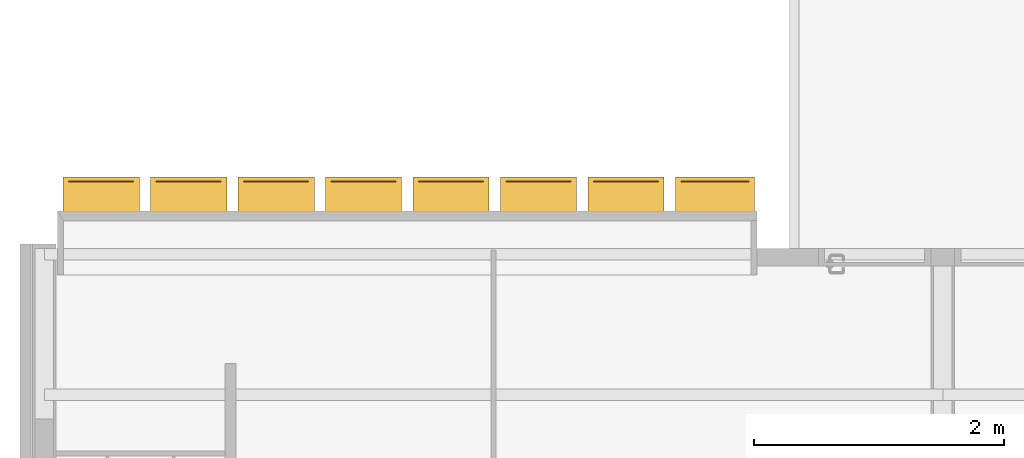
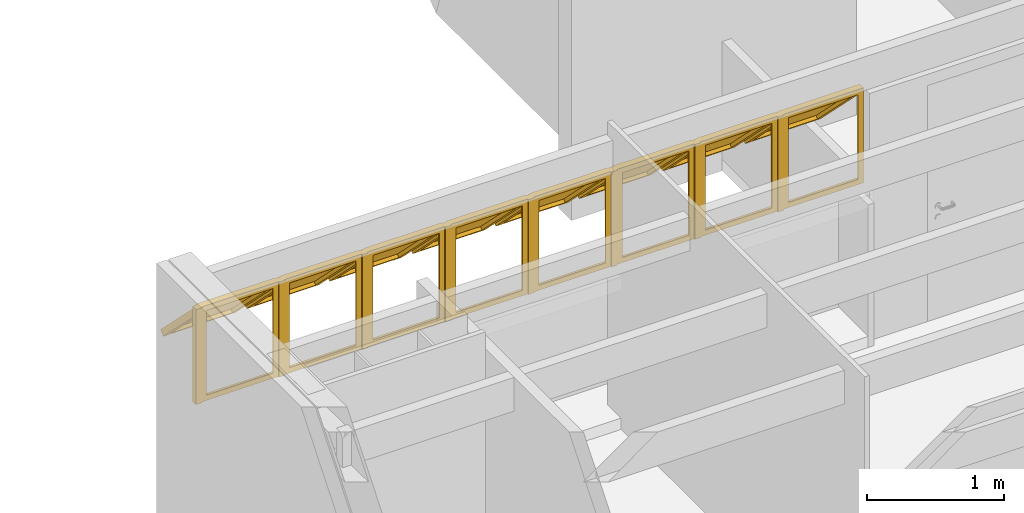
# One storey, part 17 of 22: 1 window.
"""IFC2X3 building model written with IfcOpenShell, lengths in millimetres."""

from ifc_helpers import new_model, si_unit, direction, frame, frame_2d, origin_with_axes, origin_2d_with_axis, place, context, subcontext, project, spatial, polyline, rectangle, outline, extrude, source, transform, mapped, type_object, type_shapes, element, save


model = new_model("IFC2X3")

# Units and contexts
model_context = context("Model", 3, precision=1e-05, world=origin_with_axes(), true_north=direction((0.0, 1.0)))
body_context = subcontext(model_context, "Body", "Model", "MODEL_VIEW")
ifc_project = project(units=[si_unit("LENGTHUNIT", "METRE", prefix="MILLI"), si_unit("AREAUNIT", "SQUARE_METRE"), si_unit("VOLUMEUNIT", "CUBIC_METRE"), si_unit("PLANEANGLEUNIT", "RADIAN"), si_unit("TIMEUNIT", "SECOND"), si_unit("MASSUNIT", "GRAM")], contexts=[model_context])

# Site, building, storey
site_placement = place(None, origin_with_axes())
site = spatial("IfcSite", under=ifc_project, at=site_placement, Name="Site", CompositionType="ELEMENT")
building_placement = place(site_placement, origin_with_axes())
building = spatial("IfcBuilding", under=site, at=building_placement, Name="Construção", CompositionType="COMPLEX")
storey_placement = place(building_placement, frame((0.0, 0.0, 2650.0), z_axis=(0.0, 0.0, 1.0), x_axis=(1.0, 0.0, 0.0)))
storey = spatial("IfcBuildingStorey", under=building, at=storey_placement, Name="Segundo Pavimento", CompositionType="COMPLEX", Elevation=2650.0)

# Window
window_style = type_object("IfcWindowStyle", ConstructionType="NOTDEFINED", OperationType="NOTDEFINED", ParameterTakesPrecedence=False, Sizeable=False)
shared_shape_1 = source(origin_with_axes(), body_context, "Body", "SweptSolid", [
    extrude(outline(polyline([(324.99999695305, -22.5), (-324.99999695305, -22.5), (-279.99999695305, 22.5), (279.99999695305, 22.5), (324.99999695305, -22.5)])), frame((-350.0000005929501, 22.5, -40.0), z_axis=(0.0, 0.0, 1.0), x_axis=(1.0, 0.0, 0.0)), (0.0, 0.0, 1.0), 5.0),
    extrude(outline(polyline([(-22.5, -422.499945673), (-22.5, 422.499945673), (22.5, 377.499945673), (22.5, -377.499945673), (-22.5, -422.499945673)])), frame((-652.499997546, 422.499945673, -40.0), z_axis=(0.0, 0.0, 1.0), x_axis=(1.0, 0.0, 0.0)), (0.0, 0.0, 1.0), 5.0),
    extrude(outline(polyline([(324.99999695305, 22.5), (279.99999695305, -22.5), (-279.9999969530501, -22.5), (-324.9999969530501, 22.5), (324.99999695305, 22.5)])), frame((-350.00000059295, 822.499891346, -40.0), z_axis=(0.0, 0.0, 1.0), x_axis=(1.0, 0.0, 0.0)), (0.0, 0.0, 1.0), 5.0),
    extrude(outline(polyline([(22.5, -422.499945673), (-22.5, -377.499945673), (-22.5, 377.499945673), (22.5, 422.499945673), (22.5, -422.499945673)])), frame((-47.5000036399, 422.499945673, -40.0), z_axis=(0.0, 0.0, 1.0), x_axis=(1.0, 0.0, 0.0)), (0.0, 0.0, 1.0), 5.0),
    extrude(outline(polyline([(324.99999695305, -10.0), (-324.99999695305, -10.0), (-304.99999695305, 10.0), (304.99999695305, 10.0), (324.99999695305, -10.0)])), frame((-350.0000005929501, 10.0, -35.0), z_axis=(0.0, 0.0, 1.0), x_axis=(1.0, 0.0, 0.0)), (0.0, 0.0, 1.0), 50.0),
    extrude(outline(polyline([(-10.0, -422.499945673), (-10.0, 422.499945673), (10.0, 402.499945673), (10.0, -402.499945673), (-10.0, -422.499945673)])), frame((-664.999997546, 422.499945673, -35.0), z_axis=(0.0, 0.0, 1.0), x_axis=(1.0, 0.0, 0.0)), (0.0, 0.0, 1.0), 50.0),
    extrude(outline(polyline([(324.99999695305, 10.0), (304.99999695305, -10.0), (-304.9999969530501, -10.0), (-324.9999969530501, 10.0), (324.99999695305, 10.0)])), frame((-350.00000059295, 834.999891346, -35.0), z_axis=(0.0, 0.0, 1.0), x_axis=(1.0, 0.0, 0.0)), (0.0, 0.0, 1.0), 50.0),
    extrude(outline(polyline([(10.0, -422.499945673), (-10.0, -402.499945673), (-10.0, 402.499945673), (10.0, 422.499945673), (10.0, -422.499945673)])), frame((-35.0000036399, 422.499945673, -35.0), z_axis=(0.0, 0.0, 1.0), x_axis=(1.0, 0.0, 0.0)), (0.0, 0.0, 1.0), 50.0),
    extrude(rectangle(XDim=844.999891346, YDim=19.99999787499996, at=frame_2d((0.0, 0.0), x_axis=(0.0, 1.0))), frame((-684.9999964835, 422.499945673, -10.0), z_axis=(0.0, 0.0, 1.0), x_axis=(1.0, 0.0, 0.0)), (0.0, 0.0, 1.0), 20.0),
    extrude(rectangle(XDim=844.999891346, YDim=19.99999787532, at=frame_2d((0.0, 0.0), x_axis=(0.0, 1.0))), frame((-15.00000470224, 422.499945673, -10.0), z_axis=(0.0, 0.0, 1.0), x_axis=(1.0, 0.0, 0.0)), (0.0, 0.0, 1.0), 20.0),
    extrude(outline(polyline([(-22.5, -357.4999456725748), (-22.50000000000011, 357.499945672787), (22.5, 402.4999456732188), (22.5, -402.4999456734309), (-22.5, -357.4999456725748)])), frame((-67.5000036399, 505.034111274, 264.2551019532), z_axis=(4.714640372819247e-12, 0.7071067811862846, 0.7071067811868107), x_axis=(1.0, 0.0, 0.0)), (0.0, 0.0, 1.0), 55.00000000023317),
    extrude(outline(polyline([(-22.5, -402.4999456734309), (-22.50000000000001, 402.4999456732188), (22.5, 357.499945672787), (22.5, -357.4999456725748), (-22.5, -402.4999456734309)])), frame((-632.499997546, 505.034111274, 264.2551019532), z_axis=(4.714640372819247e-12, 0.7071067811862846, 0.7071067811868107), x_axis=(1.0, 0.0, 0.0)), (0.0, 0.0, 1.0), 55.00000000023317),
    extrude(outline(polyline([(-304.9999969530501, -22.50000000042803), (-259.9999969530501, 22.50000000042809), (259.99999695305, 22.50000000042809), (304.99999695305, -22.50000000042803), (-304.9999969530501, -22.50000000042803)])), frame((-350.0000005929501, 236.333572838, 532.955640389), z_axis=(4.714640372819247e-12, 0.7071067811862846, 0.7071067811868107), x_axis=(1.0, 0.0, 0.0)), (0.0, 0.0, 1.0), 55.00000000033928),
    extrude(outline(polyline([(304.99999695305, 22.500000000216), (259.99999695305, -22.500000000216), (-259.9999969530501, -22.500000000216), (-304.9999969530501, 22.500000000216), (304.99999695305, 22.500000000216)])), frame((-350.00000059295, 773.73464971, -4.4454364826), z_axis=(4.714640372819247e-12, 0.7071067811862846, 0.7071067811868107), x_axis=(1.0, 0.0, 0.0)), (0.0, 0.0, 1.0), 55.00000000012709),
])
shared_shape_2 = source(origin_with_axes(), body_context, "Body", "SweptSolid", [
    extrude(rectangle(XDim=519.9999939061, YDim=16.00000000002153, at=origin_2d_with_axis()), frame((-350.0000005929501, 783.9876980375, 37.627416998), z_axis=(0.0, -0.7071067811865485, 0.7071067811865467), x_axis=(1.0, 0.0, 0.0)), (0.0, 0.0, 1.0), 714.9998913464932),
])
shared_shape_3 = source(origin_with_axes(), body_context, "Body", "MappedRepresentation", [
    mapped(shared_shape_1, transform((2400.0, 8250.0, 4005.00007107), x_axis=(-1.0, 0.0, 0.0), y_axis=(0.0, 0.0, 1.0), z_axis=(0.0, 1.0, 0.0), scale=1.0)),
    mapped(shared_shape_2, transform((2400.0, 8250.0, 4005.00007107), x_axis=(-1.0, 0.0, 0.0), y_axis=(0.0, 0.0, 1.0), z_axis=(0.0, 1.0, 0.0), scale=1.0)),
])
shared_shape_4 = source(origin_with_axes(), body_context, "Body", "MappedRepresentation", [
    mapped(shared_shape_1, transform((4500.0, 8250.0, 4005.00007107), x_axis=(-1.0, 0.0, 0.0), y_axis=(0.0, 0.0, 1.0), z_axis=(0.0, 1.0, 0.0), scale=1.0)),
    mapped(shared_shape_2, transform((4500.0, 8250.0, 4005.00007107), x_axis=(-1.0, 0.0, 0.0), y_axis=(0.0, 0.0, 1.0), z_axis=(0.0, 1.0, 0.0), scale=1.0)),
])
shared_shape_5 = source(origin_with_axes(), body_context, "Body", "SweptSolid", [
    extrude(outline(polyline([(324.99999695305, -22.5), (-324.99999695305, -22.5), (-279.99999695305, 22.5), (279.99999695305, 22.5), (324.99999695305, -22.5)])), frame((-350.0000005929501, 22.5, -40.0), z_axis=(0.0, 0.0, 1.0), x_axis=(1.0, 0.0, 0.0)), (0.0, 0.0, 1.0), 5.0),
    extrude(outline(polyline([(-22.5, -422.499945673), (-22.5, 422.499945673), (22.5, 377.499945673), (22.5, -377.499945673), (-22.5, -422.499945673)])), frame((-652.499997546, 422.499945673, -40.0), z_axis=(0.0, 0.0, 1.0), x_axis=(1.0, 0.0, 0.0)), (0.0, 0.0, 1.0), 5.0),
    extrude(outline(polyline([(324.99999695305, 22.5), (279.99999695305, -22.5), (-279.9999969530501, -22.5), (-324.9999969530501, 22.5), (324.99999695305, 22.5)])), frame((-350.00000059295, 822.499891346, -40.0), z_axis=(0.0, 0.0, 1.0), x_axis=(1.0, 0.0, 0.0)), (0.0, 0.0, 1.0), 5.0),
    extrude(outline(polyline([(22.5, -422.499945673), (-22.5, -377.499945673), (-22.5, 377.499945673), (22.5, 422.499945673), (22.5, -422.499945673)])), frame((-47.5000036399, 422.499945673, -40.0), z_axis=(0.0, 0.0, 1.0), x_axis=(1.0, 0.0, 0.0)), (0.0, 0.0, 1.0), 5.0),
    extrude(outline(polyline([(324.99999695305, -10.0), (-324.99999695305, -10.0), (-304.99999695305, 10.0), (304.99999695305, 10.0), (324.99999695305, -10.0)])), frame((-350.0000005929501, 10.0, -35.0), z_axis=(0.0, 0.0, 1.0), x_axis=(1.0, 0.0, 0.0)), (0.0, 0.0, 1.0), 50.0),
    extrude(outline(polyline([(-10.0, -422.499945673), (-10.0, 422.499945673), (10.0, 402.499945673), (10.0, -402.499945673), (-10.0, -422.499945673)])), frame((-664.999997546, 422.499945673, -35.0), z_axis=(0.0, 0.0, 1.0), x_axis=(1.0, 0.0, 0.0)), (0.0, 0.0, 1.0), 50.0),
    extrude(outline(polyline([(324.99999695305, 10.0), (304.99999695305, -10.0), (-304.9999969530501, -10.0), (-324.9999969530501, 10.0), (324.99999695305, 10.0)])), frame((-350.00000059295, 834.999891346, -35.0), z_axis=(0.0, 0.0, 1.0), x_axis=(1.0, 0.0, 0.0)), (0.0, 0.0, 1.0), 50.0),
    extrude(outline(polyline([(10.0, -422.499945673), (-10.0, -402.499945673), (-10.0, 402.499945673), (10.0, 422.499945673), (10.0, -422.499945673)])), frame((-35.0000036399, 422.499945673, -35.0), z_axis=(0.0, 0.0, 1.0), x_axis=(1.0, 0.0, 0.0)), (0.0, 0.0, 1.0), 50.0),
    extrude(rectangle(XDim=844.999891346, YDim=19.99999787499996, at=frame_2d((0.0, 0.0), x_axis=(0.0, 1.0))), frame((-684.9999964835, 422.499945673, -10.0), z_axis=(0.0, 0.0, 1.0), x_axis=(1.0, 0.0, 0.0)), (0.0, 0.0, 1.0), 20.0),
    extrude(rectangle(XDim=844.999891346, YDim=19.99999787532, at=frame_2d((0.0, 0.0), x_axis=(0.0, 1.0))), frame((-15.00000470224, 422.499945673, -10.0), z_axis=(0.0, 0.0, 1.0), x_axis=(1.0, 0.0, 0.0)), (0.0, 0.0, 1.0), 20.0),
    extrude(outline(polyline([(-22.5, -357.4999456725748), (-22.50000000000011, 357.499945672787), (22.5, 402.4999456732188), (22.5, -402.4999456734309), (-22.5, -357.4999456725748)])), frame((-67.5000036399, 505.034111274, 264.2551019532), z_axis=(4.714640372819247e-12, 0.7071067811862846, 0.7071067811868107), x_axis=(1.0, 0.0, 0.0)), (0.0, 0.0, 1.0), 55.00000000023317),
    extrude(outline(polyline([(-22.5, -402.4999456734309), (-22.50000000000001, 402.4999456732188), (22.5, 357.499945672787), (22.5, -357.4999456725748), (-22.5, -402.4999456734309)])), frame((-632.499997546, 505.034111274, 264.2551019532), z_axis=(4.714640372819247e-12, 0.7071067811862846, 0.7071067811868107), x_axis=(1.0, 0.0, 0.0)), (0.0, 0.0, 1.0), 55.00000000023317),
    extrude(outline(polyline([(-304.9999969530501, -22.50000000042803), (-259.9999969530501, 22.50000000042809), (259.99999695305, 22.50000000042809), (304.99999695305, -22.50000000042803), (-304.9999969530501, -22.50000000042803)])), frame((-350.0000005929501, 236.333572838, 532.955640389), z_axis=(4.714640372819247e-12, 0.7071067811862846, 0.7071067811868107), x_axis=(1.0, 0.0, 0.0)), (0.0, 0.0, 1.0), 55.00000000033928),
    extrude(outline(polyline([(304.99999695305, 22.500000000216), (259.99999695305, -22.500000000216), (-259.9999969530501, -22.500000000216), (-304.9999969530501, 22.500000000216), (304.99999695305, 22.500000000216)])), frame((-350.00000059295, 773.73464971, -4.4454364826), z_axis=(4.714640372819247e-12, 0.7071067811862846, 0.7071067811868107), x_axis=(1.0, 0.0, 0.0)), (0.0, 0.0, 1.0), 55.00000000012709),
])
shared_shape_6 = source(origin_with_axes(), body_context, "Body", "SweptSolid", [
    extrude(rectangle(XDim=519.9999939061, YDim=16.00000000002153, at=origin_2d_with_axis()), frame((-350.0000005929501, 783.9876980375, 37.627416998), z_axis=(0.0, -0.7071067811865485, 0.7071067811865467), x_axis=(1.0, 0.0, 0.0)), (0.0, 0.0, 1.0), 714.9998913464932),
])
shared_shape_7 = source(origin_with_axes(), body_context, "Body", "MappedRepresentation", [
    mapped(shared_shape_5, transform((300.0, 8250.0, 4005.00007107), x_axis=(-1.0, 0.0, 0.0), y_axis=(0.0, 0.0, 1.0), z_axis=(0.0, 1.0, 0.0), scale=1.0)),
    mapped(shared_shape_6, transform((300.0, 8250.0, 4005.00007107), x_axis=(-1.0, 0.0, 0.0), y_axis=(0.0, 0.0, 1.0), z_axis=(0.0, 1.0, 0.0), scale=1.0)),
])
shared_shape_8 = source(origin_with_axes(), body_context, "Body", "MappedRepresentation", [
    mapped(shared_shape_5, transform((1000.0, 8250.0, 4005.00007107), x_axis=(-1.0, 0.0, 0.0), y_axis=(0.0, 0.0, 1.0), z_axis=(0.0, 1.0, 0.0), scale=1.0)),
    mapped(shared_shape_6, transform((1000.0, 8250.0, 4005.00007107), x_axis=(-1.0, 0.0, 0.0), y_axis=(0.0, 0.0, 1.0), z_axis=(0.0, 1.0, 0.0), scale=1.0)),
])
shared_shape_9 = source(origin_with_axes(), body_context, "Body", "SweptSolid", [
    extrude(outline(polyline([(324.99999695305, -22.5), (-324.99999695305, -22.5), (-279.99999695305, 22.5), (279.99999695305, 22.5), (324.99999695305, -22.5)])), frame((-350.0000005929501, 22.5, -40.0), z_axis=(0.0, 0.0, 1.0), x_axis=(1.0, 0.0, 0.0)), (0.0, 0.0, 1.0), 5.0),
    extrude(outline(polyline([(-22.5, -422.499945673), (-22.5, 422.499945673), (22.5, 377.499945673), (22.5, -377.499945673), (-22.5, -422.499945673)])), frame((-652.499997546, 422.499945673, -40.0), z_axis=(0.0, 0.0, 1.0), x_axis=(1.0, 0.0, 0.0)), (0.0, 0.0, 1.0), 5.0),
    extrude(outline(polyline([(324.99999695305, 22.5), (279.99999695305, -22.5), (-279.9999969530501, -22.5), (-324.9999969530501, 22.5), (324.99999695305, 22.5)])), frame((-350.00000059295, 822.499891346, -40.0), z_axis=(0.0, 0.0, 1.0), x_axis=(1.0, 0.0, 0.0)), (0.0, 0.0, 1.0), 5.0),
    extrude(outline(polyline([(22.5, -422.499945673), (-22.5, -377.499945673), (-22.5, 377.499945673), (22.5, 422.499945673), (22.5, -422.499945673)])), frame((-47.5000036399, 422.499945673, -40.0), z_axis=(0.0, 0.0, 1.0), x_axis=(1.0, 0.0, 0.0)), (0.0, 0.0, 1.0), 5.0),
    extrude(outline(polyline([(324.99999695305, -10.0), (-324.99999695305, -10.0), (-304.99999695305, 10.0), (304.99999695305, 10.0), (324.99999695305, -10.0)])), frame((-350.0000005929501, 10.0, -35.0), z_axis=(0.0, 0.0, 1.0), x_axis=(1.0, 0.0, 0.0)), (0.0, 0.0, 1.0), 50.0),
    extrude(outline(polyline([(-10.0, -422.499945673), (-10.0, 422.499945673), (10.0, 402.499945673), (10.0, -402.499945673), (-10.0, -422.499945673)])), frame((-664.999997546, 422.499945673, -35.0), z_axis=(0.0, 0.0, 1.0), x_axis=(1.0, 0.0, 0.0)), (0.0, 0.0, 1.0), 50.0),
    extrude(outline(polyline([(324.99999695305, 10.0), (304.99999695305, -10.0), (-304.9999969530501, -10.0), (-324.9999969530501, 10.0), (324.99999695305, 10.0)])), frame((-350.00000059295, 834.999891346, -35.0), z_axis=(0.0, 0.0, 1.0), x_axis=(1.0, 0.0, 0.0)), (0.0, 0.0, 1.0), 50.0),
    extrude(outline(polyline([(10.0, -422.499945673), (-10.0, -402.499945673), (-10.0, 402.499945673), (10.0, 422.499945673), (10.0, -422.499945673)])), frame((-35.0000036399, 422.499945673, -35.0), z_axis=(0.0, 0.0, 1.0), x_axis=(1.0, 0.0, 0.0)), (0.0, 0.0, 1.0), 50.0),
    extrude(rectangle(XDim=844.999891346, YDim=19.99999787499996, at=frame_2d((0.0, 0.0), x_axis=(0.0, 1.0))), frame((-684.9999964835, 422.499945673, -10.0), z_axis=(0.0, 0.0, 1.0), x_axis=(1.0, 0.0, 0.0)), (0.0, 0.0, 1.0), 20.0),
    extrude(rectangle(XDim=844.999891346, YDim=19.99999787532, at=frame_2d((0.0, 0.0), x_axis=(0.0, 1.0))), frame((-15.00000470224, 422.499945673, -10.0), z_axis=(0.0, 0.0, 1.0), x_axis=(1.0, 0.0, 0.0)), (0.0, 0.0, 1.0), 20.0),
    extrude(outline(polyline([(-22.5, -357.4999456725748), (-22.50000000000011, 357.499945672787), (22.5, 402.4999456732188), (22.5, -402.4999456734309), (-22.5, -357.4999456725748)])), frame((-67.5000036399, 505.034111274, 264.2551019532), z_axis=(4.714640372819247e-12, 0.7071067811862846, 0.7071067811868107), x_axis=(1.0, 0.0, 0.0)), (0.0, 0.0, 1.0), 55.00000000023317),
    extrude(outline(polyline([(-22.5, -402.4999456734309), (-22.50000000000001, 402.4999456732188), (22.5, 357.499945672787), (22.5, -357.4999456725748), (-22.5, -402.4999456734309)])), frame((-632.499997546, 505.034111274, 264.2551019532), z_axis=(4.714640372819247e-12, 0.7071067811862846, 0.7071067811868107), x_axis=(1.0, 0.0, 0.0)), (0.0, 0.0, 1.0), 55.00000000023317),
    extrude(outline(polyline([(-304.9999969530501, -22.50000000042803), (-259.9999969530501, 22.50000000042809), (259.99999695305, 22.50000000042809), (304.99999695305, -22.50000000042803), (-304.9999969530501, -22.50000000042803)])), frame((-350.0000005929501, 236.333572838, 532.955640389), z_axis=(4.714640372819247e-12, 0.7071067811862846, 0.7071067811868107), x_axis=(1.0, 0.0, 0.0)), (0.0, 0.0, 1.0), 55.00000000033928),
    extrude(outline(polyline([(304.99999695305, 22.500000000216), (259.99999695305, -22.500000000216), (-259.9999969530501, -22.500000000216), (-304.9999969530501, 22.500000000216), (304.99999695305, 22.500000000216)])), frame((-350.00000059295, 773.73464971, -4.4454364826), z_axis=(4.714640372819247e-12, 0.7071067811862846, 0.7071067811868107), x_axis=(1.0, 0.0, 0.0)), (0.0, 0.0, 1.0), 55.00000000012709),
])
shared_shape_10 = source(origin_with_axes(), body_context, "Body", "SweptSolid", [
    extrude(rectangle(XDim=519.9999939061, YDim=16.00000000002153, at=origin_2d_with_axis()), frame((-350.0000005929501, 783.9876980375, 37.627416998), z_axis=(0.0, -0.7071067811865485, 0.7071067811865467), x_axis=(1.0, 0.0, 0.0)), (0.0, 0.0, 1.0), 714.9998913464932),
])
shared_shape_11 = source(origin_with_axes(), body_context, "Body", "MappedRepresentation", [
    mapped(shared_shape_9, transform((3100.0, 8250.0, 4005.00007107), x_axis=(-1.0, 0.0, 0.0), y_axis=(0.0, 0.0, 1.0), z_axis=(0.0, 1.0, 0.0), scale=1.0)),
    mapped(shared_shape_10, transform((3100.0, 8250.0, 4005.00007107), x_axis=(-1.0, 0.0, 0.0), y_axis=(0.0, 0.0, 1.0), z_axis=(0.0, 1.0, 0.0), scale=1.0)),
])
shared_shape_12 = source(origin_with_axes(), body_context, "Body", "MappedRepresentation", [
    mapped(shared_shape_5, transform((3800.0, 8250.0, 4005.00007107), x_axis=(-1.0, 0.0, 0.0), y_axis=(0.0, 0.0, 1.0), z_axis=(0.0, 1.0, 0.0), scale=1.0)),
    mapped(shared_shape_6, transform((3800.0, 8250.0, 4005.00007107), x_axis=(-1.0, 0.0, 0.0), y_axis=(0.0, 0.0, 1.0), z_axis=(0.0, 1.0, 0.0), scale=1.0)),
])
shared_shape_13 = source(origin_with_axes(), body_context, "Body", "SweptSolid", [
    extrude(outline(polyline([(337.49999657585, -22.5), (-337.49999657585, -22.5), (-292.49999657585, 22.5), (292.49999657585, 22.5), (337.49999657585, -22.5)])), frame((-362.50000285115, 22.5, -40.0), z_axis=(0.0, 0.0, 1.0), x_axis=(1.0, 0.0, 0.0)), (0.0, 0.0, 1.0), 5.0),
    extrude(outline(polyline([(-22.5, -422.4999902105), (-22.5, 422.4999902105), (22.5, 377.4999902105), (22.5, -377.4999902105), (-22.5, -422.4999902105)])), frame((-677.499999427, 422.4999902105, -40.0), z_axis=(0.0, 0.0, 1.0), x_axis=(1.0, 0.0, 0.0)), (0.0, 0.0, 1.0), 5.0),
    extrude(outline(polyline([(337.49999657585, 22.5), (292.49999657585, -22.5), (-292.49999657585, -22.5), (-337.49999657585, 22.5), (337.49999657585, 22.5)])), frame((-362.50000285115, 822.499980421, -40.0), z_axis=(0.0, 0.0, 1.0), x_axis=(1.0, 0.0, 0.0)), (0.0, 0.0, 1.0), 5.0),
    extrude(outline(polyline([(22.5, -422.4999902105), (-22.5, -377.4999902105), (-22.5, 377.4999902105), (22.5, 422.4999902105), (22.5, -422.4999902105)])), frame((-47.5000062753, 422.4999902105, -40.0), z_axis=(0.0, 0.0, 1.0), x_axis=(1.0, 0.0, 0.0)), (0.0, 0.0, 1.0), 5.0),
    extrude(outline(polyline([(337.49999657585, -10.0), (-337.49999657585, -10.0), (-317.49999657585, 10.0), (317.49999657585, 10.0), (337.49999657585, -10.0)])), frame((-362.50000285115, 10.0, -35.0), z_axis=(0.0, 0.0, 1.0), x_axis=(1.0, 0.0, 0.0)), (0.0, 0.0, 1.0), 50.0),
    extrude(outline(polyline([(-10.0, -422.4999902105), (-10.0, 422.4999902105), (10.0, 402.4999902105), (10.0, -402.4999902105), (-10.0, -422.4999902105)])), frame((-689.999999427, 422.4999902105, -35.0), z_axis=(0.0, 0.0, 1.0), x_axis=(1.0, 0.0, 0.0)), (0.0, 0.0, 1.0), 50.0),
    extrude(outline(polyline([(337.49999657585, 10.0), (317.49999657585, -10.0), (-317.49999657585, -10.0), (-337.49999657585, 10.0), (337.49999657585, 10.0)])), frame((-362.50000285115, 834.999980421, -35.0), z_axis=(0.0, 0.0, 1.0), x_axis=(1.0, 0.0, 0.0)), (0.0, 0.0, 1.0), 50.0),
    extrude(outline(polyline([(10.0, -422.4999902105), (-10.0, -402.4999902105), (-10.0, 402.4999902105), (10.0, 422.4999902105), (10.0, -422.4999902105)])), frame((-35.0000062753, 422.4999902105, -35.0), z_axis=(0.0, 0.0, 1.0), x_axis=(1.0, 0.0, 0.0)), (0.0, 0.0, 1.0), 50.0),
    extrude(rectangle(XDim=844.999980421, YDim=19.99999998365, at=frame_2d((0.0, 0.0), x_axis=(0.0, 1.0))), frame((-15.000006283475, 422.4999902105, -10.0), z_axis=(0.0, 0.0, 1.0), x_axis=(1.0, 0.0, 0.0)), (0.0, 0.0, 1.0), 20.0),
    extrude(outline(polyline([(-22.49999999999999, -357.4999902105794), (-22.49999999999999, 357.4999902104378), (22.50000000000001, 402.4999902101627), (22.50000000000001, -402.4999902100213), (-22.49999999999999, -357.4999902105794)])), frame((-67.5000062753, 505.034168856, 264.25513344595), z_axis=(4.714640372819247e-12, 0.7071067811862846, 0.7071067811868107), x_axis=(1.0, 0.0, 0.0)), (0.0, 0.0, 1.0), 54.99999999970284),
    extrude(outline(polyline([(-22.5, -402.4999902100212), (-22.5, 402.4999902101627), (22.50000000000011, 357.4999902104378), (22.50000000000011, -357.4999902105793), (-22.5, -402.4999902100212)])), frame((-657.499999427, 505.034168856, 264.25513344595), z_axis=(4.714640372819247e-12, 0.7071067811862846, 0.7071067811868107), x_axis=(1.0, 0.0, 0.0)), (0.0, 0.0, 1.0), 54.99999999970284),
    extrude(outline(polyline([(-317.49999657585, -22.49999999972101), (-272.49999657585, 22.49999999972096), (272.49999657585, 22.49999999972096), (317.49999657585, -22.49999999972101), (-317.49999657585, -22.49999999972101)])), frame((-362.50000285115, 236.3335989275, 532.9557033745), z_axis=(4.714640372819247e-12, 0.7071067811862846, 0.7071067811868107), x_axis=(1.0, 0.0, 0.0)), (0.0, 0.0, 1.0), 54.99999999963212),
    extrude(outline(polyline([(317.49999657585, 22.49999999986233), (272.49999657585, -22.49999999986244), (-272.49999657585, -22.49999999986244), (-317.49999657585, 22.49999999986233), (317.49999657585, 22.49999999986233)])), frame((-362.50000285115, 773.7347387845, -4.4454364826), z_axis=(4.714640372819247e-12, 0.7071067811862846, 0.7071067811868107), x_axis=(1.0, 0.0, 0.0)), (0.0, 0.0, 1.0), 54.99999999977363),
])
shared_shape_14 = source(origin_with_axes(), body_context, "Body", "SweptSolid", [
    extrude(rectangle(XDim=544.9999931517, YDim=16.00000000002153, at=origin_2d_with_axis()), frame((-362.50000285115, 783.9877871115, 37.627416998), z_axis=(0.0, -0.7071067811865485, 0.7071067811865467), x_axis=(1.0, 0.0, 0.0)), (0.0, 0.0, 1.0), 714.9999804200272),
])
shared_shape_15 = source(origin_with_axes(), body_context, "Body", "MappedRepresentation", [
    mapped(shared_shape_13, transform((5200.0, 8250.0, 4005.00007107), x_axis=(-1.0, 0.0, 0.0), y_axis=(0.0, 0.0, 1.0), z_axis=(0.0, 1.0, 0.0), scale=1.0)),
    mapped(shared_shape_14, transform((5200.0, 8250.0, 4005.00007107), x_axis=(-1.0, 0.0, 0.0), y_axis=(0.0, 0.0, 1.0), z_axis=(0.0, 1.0, 0.0), scale=1.0)),
])
shared_shape_16 = source(origin_with_axes(), body_context, "Body", "MappedRepresentation", [
    mapped(shared_shape_9, transform((1700.0, 8250.0, 4005.00007107), x_axis=(-1.0, 0.0, 0.0), y_axis=(0.0, 0.0, 1.0), z_axis=(0.0, 1.0, 0.0), scale=1.0)),
    mapped(shared_shape_10, transform((1700.0, 8250.0, 4005.00007107), x_axis=(-1.0, 0.0, 0.0), y_axis=(0.0, 0.0, 1.0), z_axis=(0.0, 1.0, 0.0), scale=1.0)),
])
shared_shape_17 = source(origin_with_axes(), body_context, "Body", "SweptSolid", [
    extrude(rectangle(XDim=844.999928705, YDim=50.0, at=frame_2d((0.0, 0.0), x_axis=(0.0, 1.0))), frame((2099.999999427, 422.4999643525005, -637.7564789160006), z_axis=(0.0, 0.0, 1.0), x_axis=(1.0, 0.0, 0.0)), (0.0, 0.0, 1.0), 50.0),
])
shared_shape_18 = source(origin_with_axes(), body_context, "Body", "SweptSolid", [
    extrude(rectangle(XDim=844.999928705, YDim=50.0, at=frame_2d((0.0, 0.0), x_axis=(0.0, 1.0))), frame((1399.999999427, 422.4999643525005, -637.7564789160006), z_axis=(0.0, 0.0, 1.0), x_axis=(1.0, 0.0, 0.0)), (0.0, 0.0, 1.0), 50.0),
])
shared_shape_19 = source(origin_with_axes(), body_context, "Body", "SweptSolid", [
    extrude(rectangle(XDim=844.999928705, YDim=50.0, at=frame_2d((0.0, 0.0), x_axis=(0.0, 1.0))), frame((699.9999994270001, 422.4999643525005, -637.7564789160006), z_axis=(0.0, 0.0, 1.0), x_axis=(1.0, 0.0, 0.0)), (0.0, 0.0, 1.0), 50.0),
])
shared_shape_20 = source(origin_with_axes(), body_context, "Body", "SweptSolid", [
    extrude(rectangle(XDim=844.999928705, YDim=50.0, at=frame_2d((0.0, 0.0), x_axis=(0.0, 1.0))), frame((3499.999999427, 422.4999643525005, -637.7564789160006), z_axis=(0.0, 0.0, 1.0), x_axis=(1.0, 0.0, 0.0)), (0.0, 0.0, 1.0), 50.0),
])
shared_shape_21 = source(origin_with_axes(), body_context, "Body", "SweptSolid", [
    extrude(rectangle(XDim=844.999928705, YDim=50.0, at=frame_2d((0.0, 0.0), x_axis=(0.0, 1.0))), frame((5599.999999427, 422.4999643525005, -637.7564789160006), z_axis=(0.0, 0.0, 1.0), x_axis=(1.0, 0.0, 0.0)), (0.0, 0.0, 1.0), 50.0),
])
shared_shape_22 = source(origin_with_axes(), body_context, "Body", "SweptSolid", [
    extrude(rectangle(XDim=844.999928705, YDim=50.0, at=frame_2d((0.0, 0.0), x_axis=(0.0, 1.0))), frame((2799.999999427, 422.4999643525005, -637.7564789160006), z_axis=(0.0, 0.0, 1.0), x_axis=(1.0, 0.0, 0.0)), (0.0, 0.0, 1.0), 50.0),
])
shared_shape_23 = source(origin_with_axes(), body_context, "Body", "SweptSolid", [
    extrude(rectangle(XDim=844.999928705, YDim=50.0, at=frame_2d((0.0, 0.0), x_axis=(0.0, 1.0))), frame((4199.999999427, 422.4999643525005, -637.7564789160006), z_axis=(0.0, 0.0, 1.0), x_axis=(1.0, 0.0, 0.0)), (0.0, 0.0, 1.0), 50.0),
])
shared_shape_24 = source(origin_with_axes(), body_context, "Body", "SweptSolid", [
    extrude(rectangle(XDim=844.999928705, YDim=50.0, at=frame_2d((0.0, 0.0), x_axis=(0.0, 1.0))), frame((4899.999999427, 422.4999643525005, -637.7564789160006), z_axis=(0.0, 0.0, 1.0), x_axis=(1.0, 0.0, 0.0)), (0.0, 0.0, 1.0), 50.0),
])
shared_shape_25 = source(origin_with_axes(), body_context, "Body", "MappedRepresentation", [
    mapped(shared_shape_3, transform((5899.999999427, -4005.00007107, -8837.756478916), x_axis=(-1.0, 0.0, 0.0), y_axis=(0.0, 0.0, 1.0), z_axis=(0.0, 1.0, 0.0), scale=1.0)),
    mapped(shared_shape_4, transform((5899.999999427, -4005.00007107, -8837.756478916), x_axis=(-1.0, 0.0, 0.0), y_axis=(0.0, 0.0, 1.0), z_axis=(0.0, 1.0, 0.0), scale=1.0)),
    mapped(shared_shape_7, transform((5899.999999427, -4005.00007107, -8837.756478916), x_axis=(-1.0, 0.0, 0.0), y_axis=(0.0, 0.0, 1.0), z_axis=(0.0, 1.0, 0.0), scale=1.0)),
    mapped(shared_shape_8, transform((5899.999999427, -4005.00007107, -8837.756478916), x_axis=(-1.0, 0.0, 0.0), y_axis=(0.0, 0.0, 1.0), z_axis=(0.0, 1.0, 0.0), scale=1.0)),
    mapped(shared_shape_11, transform((5899.999999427, -4005.00007107, -8837.756478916), x_axis=(-1.0, 0.0, 0.0), y_axis=(0.0, 0.0, 1.0), z_axis=(0.0, 1.0, 0.0), scale=1.0)),
    mapped(shared_shape_12, transform((5899.999999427, -4005.00007107, -8837.756478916), x_axis=(-1.0, 0.0, 0.0), y_axis=(0.0, 0.0, 1.0), z_axis=(0.0, 1.0, 0.0), scale=1.0)),
    mapped(shared_shape_15, transform((5899.999999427, -4005.00007107, -8837.756478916), x_axis=(-1.0, 0.0, 0.0), y_axis=(0.0, 0.0, 1.0), z_axis=(0.0, 1.0, 0.0), scale=1.0)),
    mapped(shared_shape_16, transform((5899.999999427, -4005.00007107, -8837.756478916), x_axis=(-1.0, 0.0, 0.0), y_axis=(0.0, 0.0, 1.0), z_axis=(0.0, 1.0, 0.0), scale=1.0)),
    mapped(shared_shape_17, transform((0.0, 0.0, 0.0))),
    mapped(shared_shape_18, transform((0.0, 0.0, 0.0))),
    mapped(shared_shape_19, transform((0.0, 0.0, 0.0))),
    mapped(shared_shape_20, transform((0.0, 0.0, 0.0))),
    mapped(shared_shape_21, transform((0.0, 0.0, 0.0))),
    mapped(shared_shape_22, transform((0.0, 0.0, 0.0))),
    mapped(shared_shape_23, transform((0.0, 0.0, 0.0))),
    mapped(shared_shape_24, transform((0.0, 0.0, 0.0))),
])
type_shapes(window_style, [shared_shape_25])
window_placement = place(storey_placement, frame((5899.999999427, 8837.756478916, 1355.00007107), z_axis=(0.0, 0.0, 1.0), x_axis=(-1.0, 0.0, 0.0)))
element("IfcWindow", 1, at=window_placement, inside=storey, type_object=window_style, Name="APTO5-JANELA-000", context=body_context, shape_type="MappedRepresentation", body=[
    mapped(shared_shape_25, transform((0.0, 0.0, 0.0), x_axis=(1.0, 0.0, 0.0), y_axis=(0.0, 0.0, 1.0), z_axis=(0.0, -1.0, 0.0), scale=1.0)),
])

save(model, "model.ifc")
